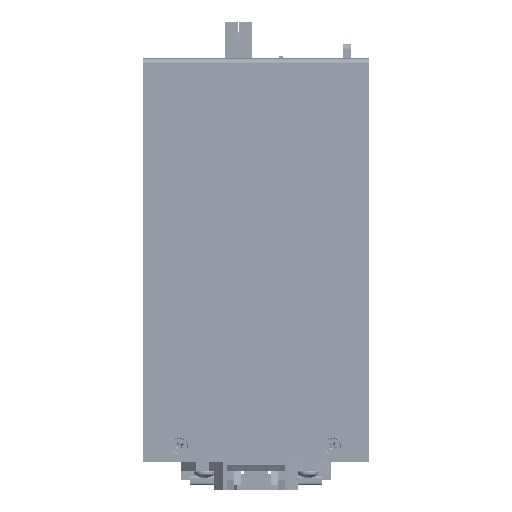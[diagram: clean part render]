
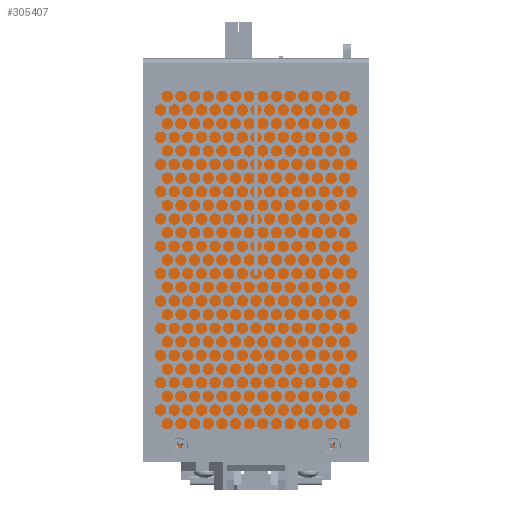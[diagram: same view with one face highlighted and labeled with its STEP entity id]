
A CAD part, front view. The second image highlights one B-rep face of the part: STEP entity #305407.
In plain terms, the highlighted planar face has unit normal (0, -1, 0) as drawn and (0, 0, 1) by its records, which use the part's own axes.
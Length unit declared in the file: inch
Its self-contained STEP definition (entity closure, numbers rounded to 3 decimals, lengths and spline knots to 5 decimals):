
#1098 = EDGE_CURVE ( 'NONE', #296554, #330450, #35159, .T. ) ;
#3003 = ORIENTED_EDGE ( 'NONE', *, *, #285709, .T. ) ;
#9128 = ORIENTED_EDGE ( 'NONE', *, *, #267528, .T. ) ;
#13821 = CARTESIAN_POINT ( 'NONE',  ( -3.0254, 0.0719, 0. ) ) ;
#29176 = FACE_OUTER_BOUND ( 'NONE', #143397, .T. ) ;
#31420 = CARTESIAN_POINT ( 'NONE',  ( -0.036, 0.0719, 0. ) ) ;
#32124 = LINE ( 'NONE', #207634, #188490 ) ;
#33683 = CIRCLE ( 'NONE', #114699, 0.032 ) ;
#35159 = LINE ( 'NONE', #343122, #353748 ) ;
#57116 = CARTESIAN_POINT ( 'NONE',  ( -0.068, 5.4699, 0. ) ) ;
#71482 = DIRECTION ( 'NONE',  ( 0., 0., 1. ) ) ;
#100486 = CARTESIAN_POINT ( 'NONE',  ( -0.068, 5.5019, 0. ) ) ;
#101562 = VECTOR ( 'NONE', #203653, 39.37008 ) ;
#114556 = VERTEX_POINT ( 'NONE', #368274 ) ;
#114699 = AXIS2_PLACEMENT_3D ( 'NONE', #57116, #146712, #177983 ) ;
#121719 = LINE ( 'NONE', #265955, #101562 ) ;
#141448 = CIRCLE ( 'NONE', #228547, 0.032 ) ;
#143397 = EDGE_LOOP ( 'NONE', ( #225923, #9128, #176032, #3003, #338838, #257661 ) ) ;
#146712 = DIRECTION ( 'NONE',  ( 0., 0., 1. ) ) ;
#146802 = VERTEX_POINT ( 'NONE', #100486 ) ;
#148113 = PLANE ( 'NONE',  #201504 ) ;
#174236 = EDGE_CURVE ( 'NONE', #263858, #146802, #33683, .T. ) ;
#176032 = ORIENTED_EDGE ( 'NONE', *, *, #174236, .T. ) ;
#177983 = DIRECTION ( 'NONE',  ( 1., 0., 0. ) ) ;
#188490 = VECTOR ( 'NONE', #352010, 39.37008 ) ;
#191879 = CARTESIAN_POINT ( 'NONE',  ( -3.0254, 5.4699, 0. ) ) ;
#196740 = EDGE_CURVE ( 'NONE', #114556, #296554, #141448, .T. ) ;
#201504 = AXIS2_PLACEMENT_3D ( 'NONE', #219626, #71482, #385969 ) ;
#203653 = DIRECTION ( 'NONE',  ( -1., 0., 0. ) ) ;
#207634 = CARTESIAN_POINT ( 'NONE',  ( -3.0254, 0.0719, 0. ) ) ;
#219626 = CARTESIAN_POINT ( 'NONE',  ( -0.068, 5.4699, 0. ) ) ;
#225923 = ORIENTED_EDGE ( 'NONE', *, *, #247426, .T. ) ;
#227950 = DIRECTION ( 'NONE',  ( 0., -1., 0. ) ) ;
#228547 = AXIS2_PLACEMENT_3D ( 'NONE', #274291, #336683, #363973 ) ;
#243823 = LINE ( 'NONE', #31420, #364272 ) ;
#247426 = EDGE_CURVE ( 'NONE', #330450, #323755, #32124, .T. ) ;
#257661 = ORIENTED_EDGE ( 'NONE', *, *, #1098, .T. ) ;
#263858 = VERTEX_POINT ( 'NONE', #318472 ) ;
#265955 = CARTESIAN_POINT ( 'NONE',  ( -0.068, 5.5019, 0. ) ) ;
#267528 = EDGE_CURVE ( 'NONE', #323755, #263858, #243823, .T. ) ;
#274291 = CARTESIAN_POINT ( 'NONE',  ( -2.9934, 5.4699, 0. ) ) ;
#285709 = EDGE_CURVE ( 'NONE', #146802, #114556, #121719, .T. ) ;
#296554 = VERTEX_POINT ( 'NONE', #191879 ) ;
#305407 = ADVANCED_FACE ( 'NONE', ( #29176 ), #148113, .T. ) ;
#318472 = CARTESIAN_POINT ( 'NONE',  ( -0.036, 5.4699, 0. ) ) ;
#323755 = VERTEX_POINT ( 'NONE', #331620 ) ;
#329676 = DIRECTION ( 'NONE',  ( 0., 1., 0. ) ) ;
#330450 = VERTEX_POINT ( 'NONE', #13821 ) ;
#331620 = CARTESIAN_POINT ( 'NONE',  ( -0.036, 0.0719, 0. ) ) ;
#336683 = DIRECTION ( 'NONE',  ( 0., 0., 1. ) ) ;
#338838 = ORIENTED_EDGE ( 'NONE', *, *, #196740, .T. ) ;
#343122 = CARTESIAN_POINT ( 'NONE',  ( -3.0254, 5.4699, 0. ) ) ;
#352010 = DIRECTION ( 'NONE',  ( 1., 0., 0. ) ) ;
#353748 = VECTOR ( 'NONE', #227950, 39.37008 ) ;
#363973 = DIRECTION ( 'NONE',  ( 1., 0., 0. ) ) ;
#364272 = VECTOR ( 'NONE', #329676, 39.37008 ) ;
#368274 = CARTESIAN_POINT ( 'NONE',  ( -2.9934, 5.5019, 0. ) ) ;
#385969 = DIRECTION ( 'NONE',  ( 1., 0., 0. ) ) ;
